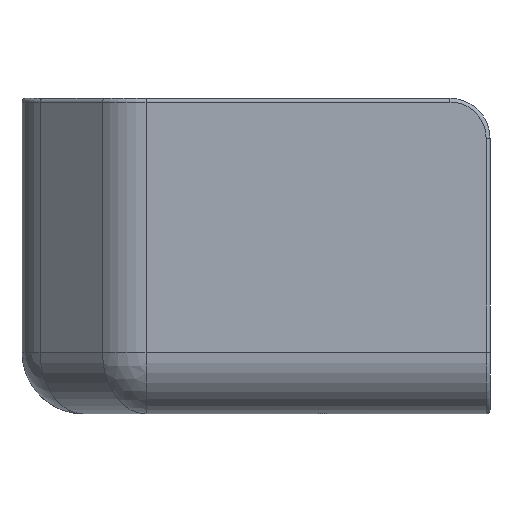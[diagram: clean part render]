
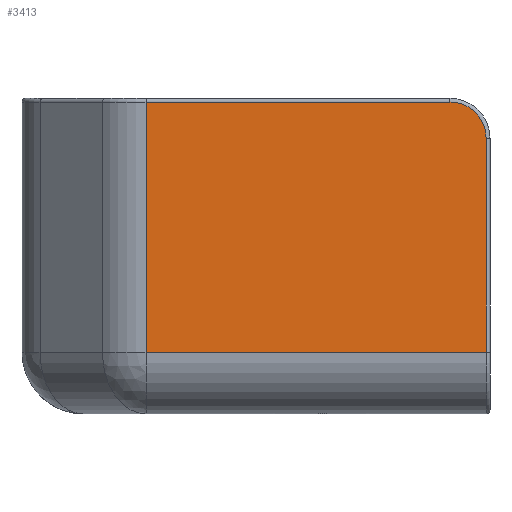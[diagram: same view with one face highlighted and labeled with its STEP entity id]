
A CAD part, front view. The second image highlights one B-rep face of the part: STEP entity #3413.
In plain terms, the highlighted planar face has unit normal (0, -1, 0).
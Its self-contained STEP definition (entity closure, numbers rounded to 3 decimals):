
#3378=AXIS2_PLACEMENT_3D('Plane Axis2P3D',#3375,#3376,#3377) ;
#3391=AXIS2_PLACEMENT_3D('Circle Axis2P3D',#3389,#3390,$) ;
#259=CARTESIAN_POINT('Vertex',(16.114,-6.,8.)) ;
#3356=CARTESIAN_POINT('Line Origine',(16.114,-6.,20.43)) ;
#3360=CARTESIAN_POINT('Vertex',(16.114,-6.,40.5)) ;
#3375=CARTESIAN_POINT('Axis2P3D Location',(60.8,-6.,0.)) ;
#3380=CARTESIAN_POINT('Line Origine',(60.3,-6.,21.9)) ;
#3384=CARTESIAN_POINT('Vertex',(60.3,-6.,8.)) ;
#3386=CARTESIAN_POINT('Vertex',(60.3,-6.,35.8)) ;
#3389=CARTESIAN_POINT('Axis2P3D Location',(55.6,-6.,35.8)) ;
#3393=CARTESIAN_POINT('Vertex',(55.6,-6.,40.5)) ;
#3396=CARTESIAN_POINT('Line Origine',(35.857,-6.,40.5)) ;
#3401=CARTESIAN_POINT('Line Origine',(38.207,-6.,8.)) ;
#3357=DIRECTION('Vector Direction',(0.,0.,1.)) ;
#3376=DIRECTION('Axis2P3D Direction',(-0.,1.,0.)) ;
#3377=DIRECTION('Axis2P3D XDirection',(-1.,-0.,0.)) ;
#3381=DIRECTION('Vector Direction',(0.,0.,-1.)) ;
#3390=DIRECTION('Axis2P3D Direction',(-0.,1.,0.)) ;
#3397=DIRECTION('Vector Direction',(1.,0.,0.)) ;
#3402=DIRECTION('Vector Direction',(-1.,0.,0.)) ;
#3358=VECTOR('Line Direction',#3357,1.) ;
#3382=VECTOR('Line Direction',#3381,1.) ;
#3398=VECTOR('Line Direction',#3397,1.) ;
#3403=VECTOR('Line Direction',#3402,1.) ;
#3407=ORIENTED_EDGE('',*,*,#3388,.T.) ;
#3408=ORIENTED_EDGE('',*,*,#3395,.T.) ;
#3409=ORIENTED_EDGE('',*,*,#3400,.T.) ;
#3410=ORIENTED_EDGE('',*,*,#3362,.F.) ;
#3411=ORIENTED_EDGE('',*,*,#3405,.F.) ;
#3413=ADVANCED_FACE('HEMERA_Doppia_5015_senza_Ventola',(#3412),#3379,.F.) ;
#3392=CIRCLE('generated circle',#3391,4.7) ;
#3362=EDGE_CURVE('',#260,#3361,#3359,.T.) ;
#3388=EDGE_CURVE('',#3385,#3387,#3383,.F.) ;
#3395=EDGE_CURVE('',#3387,#3394,#3392,.F.) ;
#3400=EDGE_CURVE('',#3394,#3361,#3399,.F.) ;
#3405=EDGE_CURVE('',#3385,#260,#3404,.T.) ;
#3406=EDGE_LOOP('',(#3407,#3408,#3409,#3410,#3411)) ;
#3412=FACE_OUTER_BOUND('',#3406,.T.) ;
#3359=LINE('Line',#3356,#3358) ;
#3383=LINE('Line',#3380,#3382) ;
#3399=LINE('Line',#3396,#3398) ;
#3404=LINE('Line',#3401,#3403) ;
#3379=PLANE('',#3378) ;
#260=VERTEX_POINT('',#259) ;
#3361=VERTEX_POINT('',#3360) ;
#3385=VERTEX_POINT('',#3384) ;
#3387=VERTEX_POINT('',#3386) ;
#3394=VERTEX_POINT('',#3393) ;
